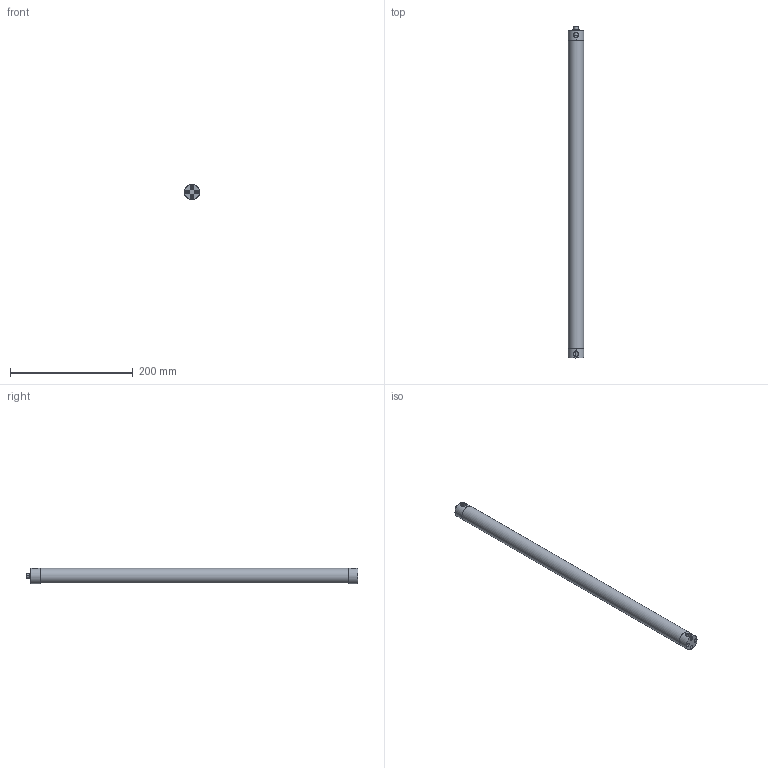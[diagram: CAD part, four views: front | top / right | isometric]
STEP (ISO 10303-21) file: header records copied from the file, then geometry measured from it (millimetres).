
FILE_DESCRIPTION (( 'STEP AP214' ), '1' );
FILE_NAME ('Slimbar 20 LED.STEP', '2011-05-26T17:51:15', ( 'JRLEDS' ), ( '' ), 'SwSTEP 2.0', 'SolidWorks 2010', '' );
FILE_SCHEMA (( 'AUTOMOTIVE_DESIGN' ));
Length unit declared in the file: millimetre
Products named in the file (7): Profilé tube 500mm; Embout non percé; Diffusant 500mm; Connecteur M8; Circuit 5 XPE 10mm; Slimbar 20 LED
Assembly tree (9 placements, depth 2):
  Slimbar 20 LED
    Circuit 5 XPE 10mm  x4
    Embout non percé
    Profilé tube 500mm
    Embout non percé
    Connecteur M8
    Diffusant 500mm
Bounding box: 25.01 x 540 x 25.02 mm (x, y, z)
Volume: 139401.9 mm3; surface area: 125152.9 mm2
Topology: 9 solids, 9 shells, 280 faces, 687 edges, 456 vertices
Faces by surface type: plane 153, cylinder 114, cone 13
Entity records: 6694 total; most frequent: CARTESIAN_POINT 1544, DIRECTION 991, ORIENTED_EDGE 942, EDGE_CURVE 471, AXIS2_PLACEMENT_3D 369, VERTEX_POINT 312, LINE 253, VECTOR 253
